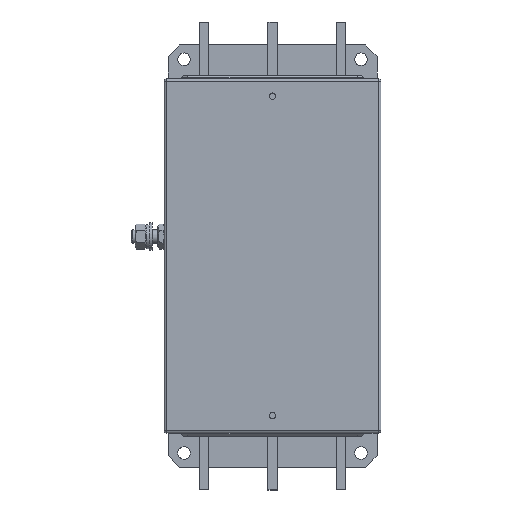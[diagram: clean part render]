
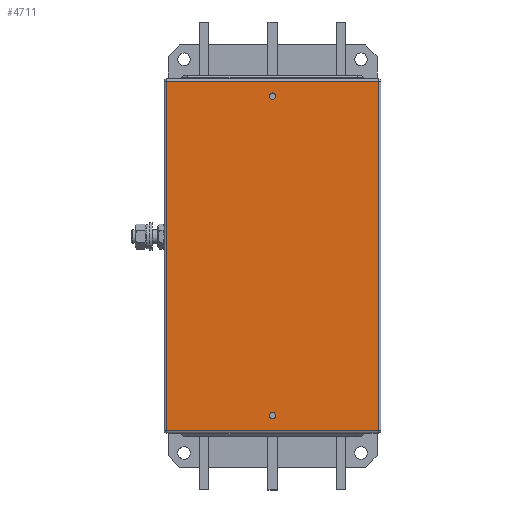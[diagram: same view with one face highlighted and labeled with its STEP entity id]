
A CAD part, top view. The second image highlights one B-rep face of the part: STEP entity #4711.
In plain terms, the highlighted planar face has unit normal (0, 0, 1).
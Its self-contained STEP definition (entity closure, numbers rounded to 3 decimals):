
#4234=CARTESIAN_POINT('',(2.75,140.0,125.0));
#4235=VERTEX_POINT('',#4234);
#4236=CARTESIAN_POINT('',(0.0,140.0,125.0));
#4237=DIRECTION('',(0.0,0.0,-1.0));
#4238=DIRECTION('',(-1.0,0.0,0.0));
#4239=AXIS2_PLACEMENT_3D('',#4236,#4237,#4238);
#4240=CIRCLE('',#4239,2.75);
#4241=EDGE_CURVE('',#4235,#4235,#4240,.T.);
#4271=CARTESIAN_POINT('',(2.75,-140.0,125.0));
#4272=VERTEX_POINT('',#4271);
#4273=CARTESIAN_POINT('',(0.0,-140.0,125.0));
#4274=DIRECTION('',(0.0,0.0,-1.0));
#4275=DIRECTION('',(-1.0,0.0,0.0));
#4276=AXIS2_PLACEMENT_3D('',#4273,#4274,#4275);
#4277=CIRCLE('',#4276,2.75);
#4278=EDGE_CURVE('',#4272,#4272,#4277,.T.);
#4299=CARTESIAN_POINT('',(93.0,153.0,125.0));
#4300=VERTEX_POINT('',#4299);
#4355=CARTESIAN_POINT('',(-93.0,153.0,125.0));
#4356=VERTEX_POINT('',#4355);
#4415=CARTESIAN_POINT('',(93.0,-153.0,125.0));
#4416=VERTEX_POINT('',#4415);
#4481=CARTESIAN_POINT('',(93.0,153.0,125.0));
#4482=DIRECTION('',(0.0,-1.0,0.0));
#4483=VECTOR('',#4482,306.0);
#4484=LINE('',#4481,#4483);
#4485=EDGE_CURVE('',#4300,#4416,#4484,.T.);
#4504=CARTESIAN_POINT('',(-93.0,-153.0,125.0));
#4505=VERTEX_POINT('',#4504);
#4570=CARTESIAN_POINT('',(93.0,-153.0,125.0));
#4571=DIRECTION('',(-1.0,0.0,0.0));
#4572=VECTOR('',#4571,186.0);
#4573=LINE('',#4570,#4572);
#4574=EDGE_CURVE('',#4416,#4505,#4573,.T.);
#4592=CARTESIAN_POINT('',(-93.0,-153.0,125.0));
#4593=DIRECTION('',(0.0,1.0,0.0));
#4594=VECTOR('',#4593,306.0);
#4595=LINE('',#4592,#4594);
#4596=EDGE_CURVE('',#4505,#4356,#4595,.T.);
#4614=CARTESIAN_POINT('',(-93.0,153.0,125.0));
#4615=DIRECTION('',(1.0,0.0,0.0));
#4616=VECTOR('',#4615,186.0);
#4617=LINE('',#4614,#4616);
#4618=EDGE_CURVE('',#4356,#4300,#4617,.T.);
#4694=CARTESIAN_POINT('',(0.0,0.0,125.0));
#4695=DIRECTION('',(0.0,0.0,1.0));
#4696=DIRECTION('',(1.0,0.0,0.0));
#4697=AXIS2_PLACEMENT_3D('',#4694,#4695,#4696);
#4698=PLANE('',#4697);
#4699=ORIENTED_EDGE('',*,*,#4485,.F.);
#4700=ORIENTED_EDGE('',*,*,#4618,.F.);
#4701=ORIENTED_EDGE('',*,*,#4596,.F.);
#4702=ORIENTED_EDGE('',*,*,#4574,.F.);
#4703=EDGE_LOOP('',(#4699,#4700,#4701,#4702));
#4704=FACE_OUTER_BOUND('',#4703,.T.);
#4705=ORIENTED_EDGE('',*,*,#4241,.T.);
#4706=EDGE_LOOP('',(#4705));
#4707=FACE_BOUND('',#4706,.T.);
#4708=ORIENTED_EDGE('',*,*,#4278,.T.);
#4709=EDGE_LOOP('',(#4708));
#4710=FACE_BOUND('',#4709,.T.);
#4711=ADVANCED_FACE('',(#4704,#4707,#4710),#4698,.T.);
